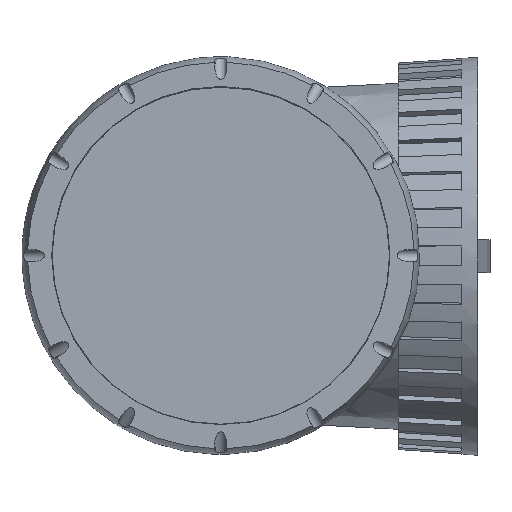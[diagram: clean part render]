
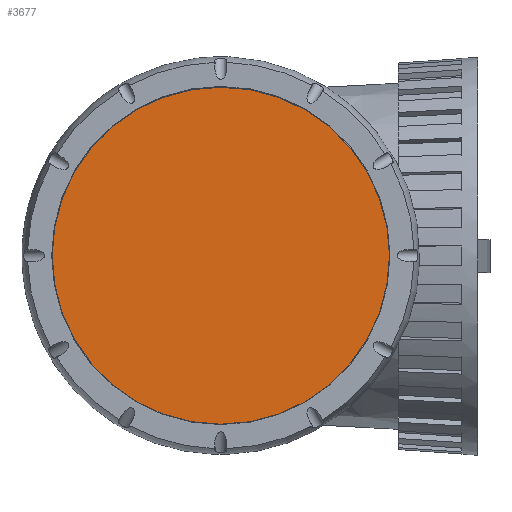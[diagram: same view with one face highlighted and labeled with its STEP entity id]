
A CAD part, top view. The second image highlights one B-rep face of the part: STEP entity #3677.
In plain terms, the highlighted planar face has unit normal (0, 0, 1).
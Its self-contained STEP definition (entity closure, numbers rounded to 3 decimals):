
#725=PLANE('',#3903);
#920=FACE_OUTER_BOUND('',#1133,.T.);
#1133=EDGE_LOOP('',(#2395));
#1359=CIRCLE('',#3904,55.5);
#1481=VERTEX_POINT('',#5265);
#1849=EDGE_CURVE('',#1481,#1481,#1359,.T.);
#2395=ORIENTED_EDGE('',*,*,#1849,.T.);
#3677=ADVANCED_FACE('',(#920),#725,.T.);
#3903=AXIS2_PLACEMENT_3D('',#5264,#4248,#4249);
#3904=AXIS2_PLACEMENT_3D('',#5266,#4250,#4251);
#4248=DIRECTION('center_axis',(0.,0.,
1.));
#4249=DIRECTION('ref_axis',(0.,-1.,0.));
#4250=DIRECTION('center_axis',(0.,0.,
1.));
#4251=DIRECTION('ref_axis',(0.,-1.,0.));
#5264=CARTESIAN_POINT('Origin',(0.,0.,
219.));
#5265=CARTESIAN_POINT('',(55.5,0.,219.));
#5266=CARTESIAN_POINT('Origin',(0.,0.,
219.));
